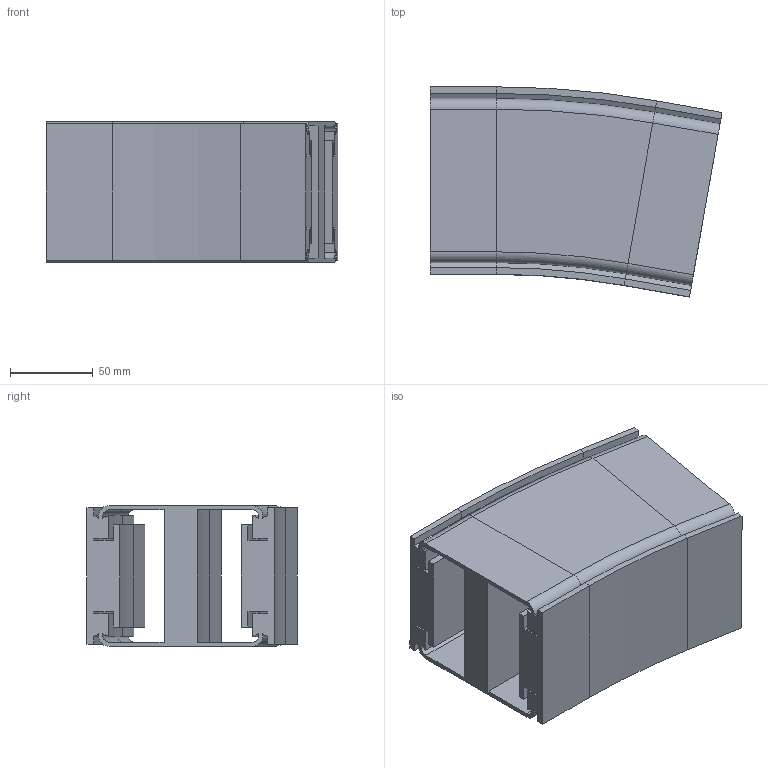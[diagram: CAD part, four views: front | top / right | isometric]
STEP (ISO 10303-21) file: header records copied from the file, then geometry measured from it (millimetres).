
FILE_DESCRIPTION (( 'STEP AP214' ), '1' );
FILE_NAME ('VC.85 Verticale bochtsectie.R500 10.STEP', '2017-02-08T08:13:08', ( '' ), ( '' ), 'SwSTEP 2.0', 'SolidWorks 2016', '' );
FILE_SCHEMA (( 'AUTOMOTIVE_DESIGN' ));
Length unit declared in the file: millimetre
Products named in the file (1): VC.85 Verticale bochtsectie.R500 10
Bounding box: 176.03 x 126.68 x 85 mm (x, y, z)
Volume: 797381 mm3; surface area: 191638.4 mm2
Topology: 1 solids, 1 shells, 206 faces, 476 edges, 272 vertices
Faces by surface type: plane 144, cylinder 46, cone 8, torus 8
Entity records: 5674 total; most frequent: DIRECTION 990, CARTESIAN_POINT 955, ORIENTED_EDGE 952, EDGE_CURVE 476, LINE 376, VECTOR 376, AXIS2_PLACEMENT_3D 307, VERTEX_POINT 272
